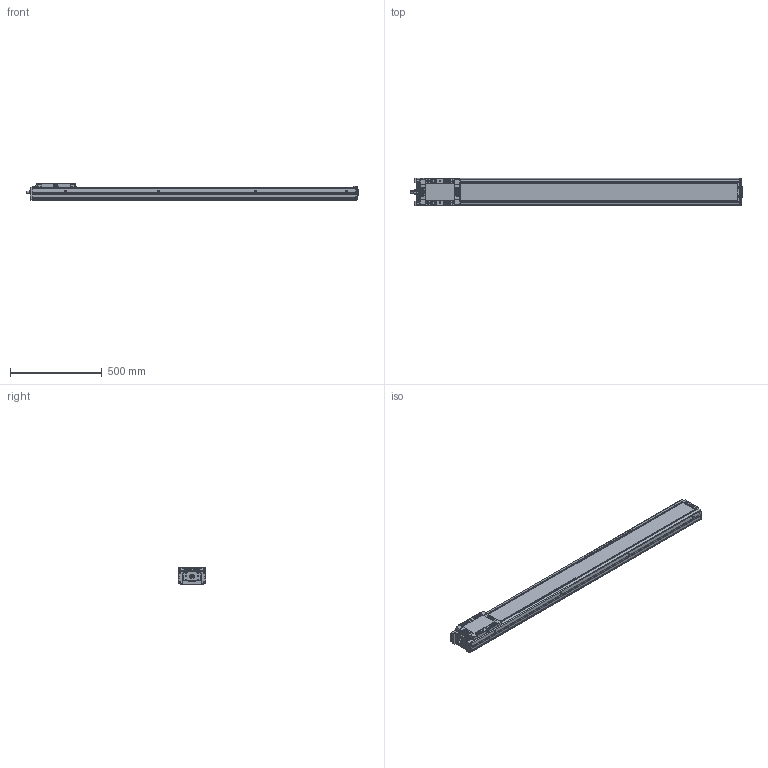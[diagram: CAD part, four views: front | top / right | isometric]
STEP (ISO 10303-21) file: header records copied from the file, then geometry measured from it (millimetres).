
FILE_DESCRIPTION(('STEP AP214'),'1');
FILE_NAME('Z:/Web/3D/SAN150/2013.04 (STP.)/SAN150ㅁㅁ-1500.stp','2013-05-07T08:15:34',(' '),(' '),'Spatial InterOp 3D',' ',' ');
FILE_SCHEMA(('automotive_design'));
Length unit declared in the file: millimetre
Products named in the file (39): SLBL-SAN150; SLCV-SAN150; FHCS M4.0 x 8.0; BHCS M4.0 x 10.0; SFX-SAN150; RRCV-SAN150; FRBL-SAN150; Spacer; RN15; FRCV-SAN150; Screw 20; BASE-SAN150-000L ; SUS COVER; 스크루 : Round - M5.0 x 6.0
Bounding box: 1808 x 150 x 90 mm (x, y, z)
Volume: 9100588.9 mm3; surface area: 1668499.4 mm2
Topology: 39 solids, 39 shells, 2321 faces, 5983 edges, 3796 vertices
Faces by surface type: plane 1049, cylinder 861, cone 322, sphere 56, bspline 21, torus 12
Entity records: 92881 total; most frequent: CARTESIAN_POINT 15897, DIRECTION 12678, ORIENTED_EDGE 11678, EDGE_CURVE 5839, AXIS2_PLACEMENT_3D 4628, VERTEX_POINT 3796, LINE 3422, VECTOR 3422
